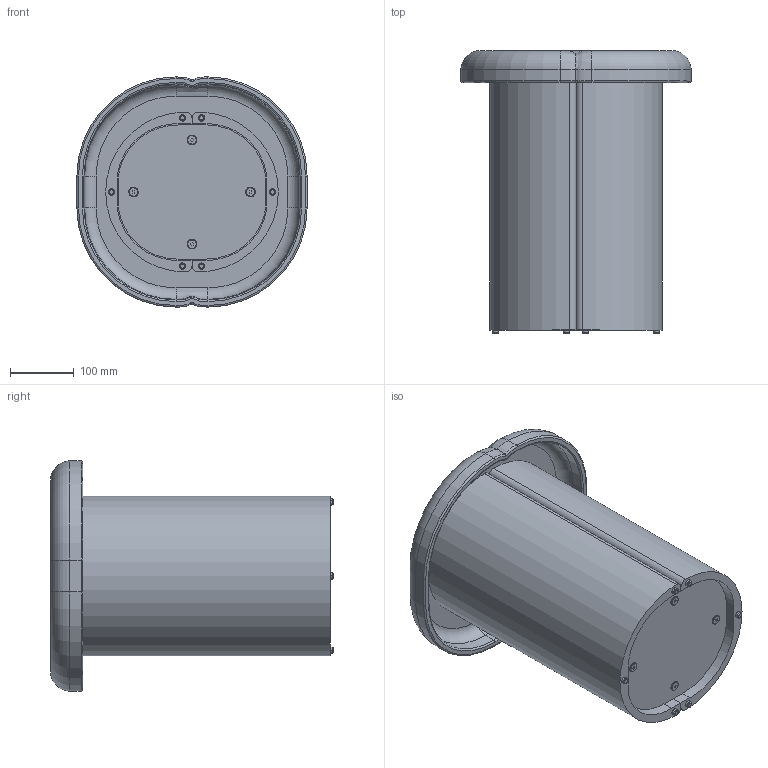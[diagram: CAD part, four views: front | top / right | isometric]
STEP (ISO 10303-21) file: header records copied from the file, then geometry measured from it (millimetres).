
FILE_DESCRIPTION (( 'STEP AP203' ), '1' );
FILE_NAME ('Mater_Alder_Stool.STEP', '2024-03-05T08:09:28', ( '' ), ( '' ), 'SwSTEP 2.0', 'SolidWorks 2023', '' );
FILE_SCHEMA (( 'CONFIG_CONTROL_DESIGN' ));
Length unit declared in the file: millimetre
Products named in the file (1): Mater_Alder_Stool
Bounding box: 360 x 442 x 360 mm (x, y, z)
Volume: 6947421.1 mm3; surface area: 1198596.5 mm2
Topology: 52 solids, 52 shells, 1676 faces, 4465 edges, 2864 vertices
Faces by surface type: cylinder 658, cone 464, plane 305, bspline 165, torus 84
Entity records: 97935 total; most frequent: CARTESIAN_POINT 58018, ORIENTED_EDGE 8826, DIRECTION 7768, EDGE_CURVE 4413, AXIS2_PLACEMENT_3D 3080, VERTEX_POINT 2864, EDGE_LOOP 1803, ADVANCED_FACE 1676
